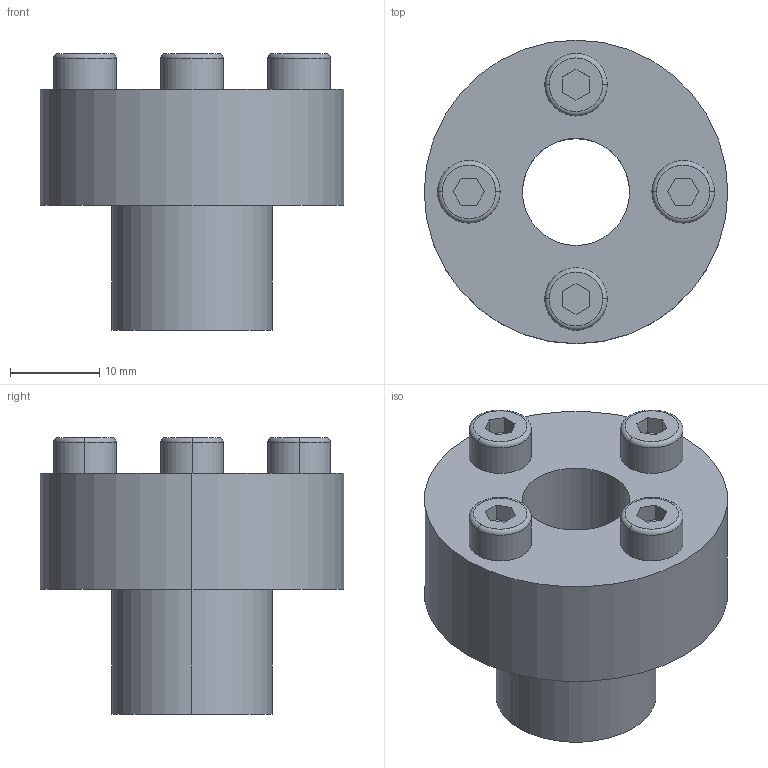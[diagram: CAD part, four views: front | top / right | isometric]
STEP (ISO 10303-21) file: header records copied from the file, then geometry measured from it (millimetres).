
FILE_DESCRIPTION (( 'STEP AP203' ), '1' );
FILE_NAME ('PL-C 12-18.STEP', '2021-10-22T08:24:49', ( '' ), ( '' ), 'SwSTEP 2.0', 'SolidWorks 2018', '' );
FILE_SCHEMA (( 'CONFIG_CONTROL_DESIGN' ));
Length unit declared in the file: millimetre
Products named in the file (1): PL-C 12-18
Bounding box: 34 x 34 x 31 mm (x, y, z)
Volume: 12837 mm3; surface area: 5200.8 mm2
Topology: 1 solids, 1 shells, 57 faces, 130 edges, 84 vertices
Faces by surface type: plane 35, cylinder 14, torus 8
Entity records: 1685 total; most frequent: DIRECTION 290, CARTESIAN_POINT 272, ORIENTED_EDGE 260, EDGE_CURVE 130, AXIS2_PLACEMENT_3D 102, VECTOR 86, LINE 86, VERTEX_POINT 84
